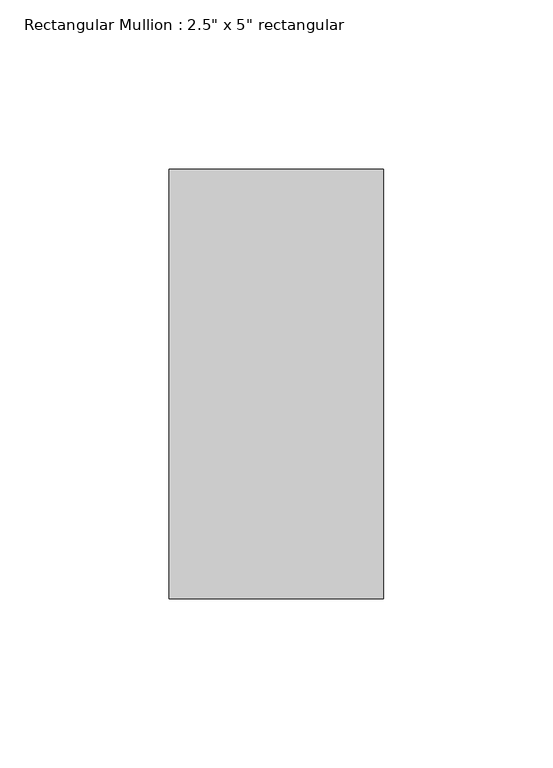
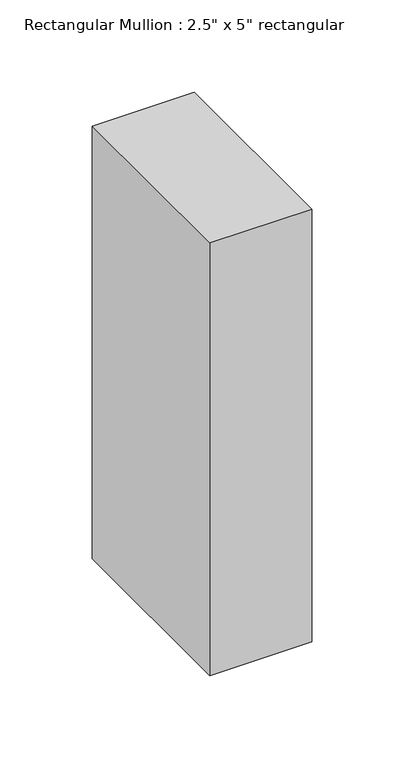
"""IFC4 building model written with IfcOpenShell, lengths in millimetres: member geometry."""

import ifcopenshell
import ifcopenshell.guid

model = None  # the IFC model being written
_history = None  # IfcOwnerHistory: only IFC2X3 demands one
_inside = {}  # id of a spatial element -> (the spatial element, [elements in it])
_under = {}  # id of a project, library or spatial element -> (it, [spatial elements below it])
_declared = {}  # id of a project -> (the project, [libraries it declares])
_typed = {}  # id of a type object -> (the type object, [elements of that type])
_made_of = {}  # id of a material, layer set ... -> (it, [elements and type objects made of it])


def new_model(schema):
    """Start an empty IFC model of exactly this schema.

    Asked for "IFC4X3", IfcOpenShell would pick the latest addendum, in which some entities
    have other attributes; the version numbers below select the first issue.
    IFC2X3 requires an IfcOwnerHistory on every rooted entity: one is made here for all.
    """
    global model, _history
    if schema == "IFC4X3":
        model = ifcopenshell.file(schema_version=(4, 3, 0, 0))
    else:
        model = ifcopenshell.file(schema=schema)
    _inside.clear()
    _under.clear()
    _declared.clear()
    _typed.clear()
    _made_of.clear()
    _history = None
    if model.schema == "IFC2X3":
        org = make("IfcOrganization", Name="unknown")
        user = make(
            "IfcPersonAndOrganization",
            ThePerson=make("IfcPerson", FamilyName="unknown"),
            TheOrganization=org,
        )
        app = make(
            "IfcApplication",
            ApplicationDeveloper=org,
            Version="unknown",
            ApplicationFullName="unknown",
            ApplicationIdentifier="unknown",
        )
        _history = make(
            "IfcOwnerHistory",
            OwningUser=user,
            OwningApplication=app,
            ChangeAction="ADDED",
            CreationDate=0,
        )
    return model


def make(cls, **values):
    """One entity of the class cls with the attributes given. An attribute that is None is left unset."""
    return model.create_entity(
        cls, **{name: value for name, value in values.items() if value is not None}
    )


def rooted(cls, **values):
    """An entity with a GlobalId (a new one), such as an element, a storey or a relation."""
    return make(cls, GlobalId=ifcopenshell.guid.new(), OwnerHistory=_history, **values)


def si_unit(unit_type, name, prefix=None):
    """IfcSIUnit, for example si_unit("LENGTHUNIT", "METRE", prefix="MILLI")."""
    return make("IfcSIUnit", UnitType=unit_type, Prefix=prefix, Name=name)


def assignment(units):
    """IfcUnitAssignment: the units of a project."""
    return None if units is None else make("IfcUnitAssignment", Units=units)


def point(xyz):
    """IfcCartesianPoint."""
    return None if xyz is None else make("IfcCartesianPoint", Coordinates=xyz)


def direction(xyz):
    """IfcDirection."""
    return None if xyz is None else make("IfcDirection", DirectionRatios=xyz)


def frame(location, z_axis=None, x_axis=None):
    """IfcAxis2Placement3D, a coordinate frame: its origin and axes. An axis left out is left unset."""
    return make(
        "IfcAxis2Placement3D",
        Location=point(location),
        Axis=direction(z_axis),
        RefDirection=direction(x_axis),
    )


def origin():
    """The frame at (0, 0, 0) with its axes left unset."""
    return frame((0.0, 0.0, 0.0))


def place(relative_to, where):
    """IfcLocalPlacement: puts the frame where relative to a parent placement (None: the world)."""
    return make(
        "IfcLocalPlacement", PlacementRelTo=relative_to, RelativePlacement=where
    )


def context(
    kind, dimensions, precision=None, world=None, true_north=None, identifier=None
):
    """IfcGeometricRepresentationContext, for example the 3D "Model" context."""
    return make(
        "IfcGeometricRepresentationContext",
        ContextIdentifier=identifier,
        ContextType=kind,
        CoordinateSpaceDimension=dimensions,
        Precision=precision,
        WorldCoordinateSystem=world,
        TrueNorth=true_north,
    )


def project(units=None, contexts=None):
    """IfcProject with its units and contexts."""
    return rooted(
        "IfcProject",
        Name="project",
        RepresentationContexts=contexts,
        UnitsInContext=assignment(units),
    )


def spatial(cls, under=None, at=None, **own):
    """A site, building, storey or space (cls), placed at a placement, below another one or the project."""
    s = rooted(cls, ObjectPlacement=at, **own)
    if under is not None:
        _under.setdefault(under.id(), (under, []))[1].append(s)
    return s


def polyline(points):
    """IfcPolyline through the points."""
    return make("IfcPolyline", Points=[point(p) for p in points])


def outline(outer, holes=None, kind="AREA"):
    """IfcArbitraryClosedProfileDef: a profile drawn as a closed curve; with holes, ...WithVoids."""
    if holes is None:
        return make("IfcArbitraryClosedProfileDef", ProfileType=kind, OuterCurve=outer)
    return make(
        "IfcArbitraryProfileDefWithVoids",
        ProfileType=kind,
        OuterCurve=outer,
        InnerCurves=holes,
    )


def extrude(swept, where, along, depth):
    """IfcExtrudedAreaSolid: the profile swept, set in the frame where, extruded along a direction by depth."""
    return make(
        "IfcExtrudedAreaSolid",
        SweptArea=swept,
        Position=where,
        ExtrudedDirection=direction(along),
        Depth=depth,
    )


def shape(context_of_items, identifier, shape_type, items):
    """IfcShapeRepresentation: the items that make up one representation, for example the "Body"."""
    return make(
        "IfcShapeRepresentation",
        ContextOfItems=context_of_items,
        RepresentationIdentifier=identifier,
        RepresentationType=shape_type,
        Items=items,
    )


def source(mapping_origin, context_of_items, identifier, shape_type, items):
    """IfcRepresentationMap: a shape defined once, which mapped items show again and again."""
    return make(
        "IfcRepresentationMap",
        MappingOrigin=mapping_origin,
        MappedRepresentation=shape(context_of_items, identifier, shape_type, items),
    )


def transform(
    local_origin,
    x_axis=None,
    y_axis=None,
    z_axis=None,
    scale=None,
    scale2=None,
    scale3=None,
    uniform=True,
):
    """IfcCartesianTransformationOperator3D, or its non-uniform kind. x_axis, y_axis, z_axis: its Axis1, 2, 3."""
    if uniform:
        return make(
            "IfcCartesianTransformationOperator3D",
            Axis1=direction(x_axis),
            Axis2=direction(y_axis),
            LocalOrigin=point(local_origin),
            Scale=scale,
            Axis3=direction(z_axis),
        )
    return make(
        "IfcCartesianTransformationOperator3DnonUniform",
        Axis1=direction(x_axis),
        Axis2=direction(y_axis),
        LocalOrigin=point(local_origin),
        Scale=scale,
        Axis3=direction(z_axis),
        Scale2=scale2,
        Scale3=scale3,
    )


def mapped(mapping_source, mapping_target):
    """IfcMappedItem: shows the shape of a source again, moved by a transform."""
    return make(
        "IfcMappedItem", MappingSource=mapping_source, MappingTarget=mapping_target
    )


def made_of(thing, what):
    """Note that an element or type object is made of a material, layer set ...; save() writes the relation."""
    if what is not None:
        _made_of.setdefault(what.id(), (what, []))[1].append(thing)
    return thing


def element(
    cls,
    number,
    at=None,
    inside=None,
    cuts=None,
    type_object=None,
    material=None,
    context=None,
    identifier="Body",
    shape_type=None,
    held_by="IfcProductDefinitionShape",
    body=None,
    shapes=None,
    **own,
):
    """One element of the class cls, such as IfcWall. Its Tag is "e" and its number.

    at: its placement. inside: the storey or other place that contains it. cuts: it is an
    opening in that element (IfcRelVoidsElement). A single representation is given by context,
    identifier, shape_type and body (its items); several are given by shapes. held_by: the class
    of the entity that holds the representations. save() writes the other relations.
    """
    e = rooted(cls, Tag="e%d" % number, ObjectPlacement=at, **own)
    if body is not None:
        shapes = [shape(context, identifier, shape_type, body)]
    if shapes is not None:
        e.Representation = make(held_by, Representations=shapes)
    if inside is not None:
        _inside.setdefault(inside.id(), (inside, []))[1].append(e)
    if cuts is not None:
        rooted(
            "IfcRelVoidsElement", RelatingBuildingElement=cuts, RelatedOpeningElement=e
        )
    if type_object is not None:
        _typed.setdefault(type_object.id(), (type_object, []))[1].append(e)
    return made_of(e, material)


def aggregate(whole, parts):
    """IfcRelAggregates: a whole, such as a stair, and the parts it consists of."""
    return rooted("IfcRelAggregates", RelatingObject=whole, RelatedObjects=parts)


def save(model, path):
    """Write the relations noted so far, then the file.

    IfcRelAggregates (storeys below a building ...), IfcRelContainedInSpatialStructure (elements
    in a storey), IfcRelDefinesByType, IfcRelAssociatesMaterial and IfcRelDeclares: one each for
    every whole, place, type object, material and project.
    """
    for whole, parts in _under.values():
        aggregate(whole, parts)
    for where, things in _inside.values():
        rooted(
            "IfcRelContainedInSpatialStructure",
            RelatedElements=things,
            RelatingStructure=where,
        )
    for kind, things in _typed.values():
        rooted("IfcRelDefinesByType", RelatedObjects=things, RelatingType=kind)
    for what, things in _made_of.values():
        rooted("IfcRelAssociatesMaterial", RelatedObjects=things, RelatingMaterial=what)
    for by, libraries in _declared.values():
        rooted("IfcRelDeclares", RelatingContext=by, RelatedDefinitions=libraries)
    model.write(path)


def member_dff87739(model_context):
    return source(origin(), model_context, "Body", "SweptSolid", [
        extrude(outline(polyline([(31.75, 63.5), (31.75, -63.5), (-31.75, -63.5), (-31.75, 63.5), (31.75, 63.5)])), frame((0.0, 0.0, -285.75), z_axis=(0.0, 0.0, 1.0), x_axis=(1.0, 0.0, 0.0)), (0.0, 0.0, 1.0), 285.75),
    ])


if __name__ == "__main__":
    model = new_model("IFC4")
    model_context = context("Model", 3, world=origin())
    ifc_project = project(units=[si_unit("LENGTHUNIT", "METRE", prefix="MILLI")], contexts=[model_context])
    site = spatial("IfcSite", under=ifc_project)
    building = spatial("IfcBuilding", under=site)
    placement = place(None, origin())
    member_shape = member_dff87739(model_context)
    element("IfcMember", 1, ObjectType="Rectangular Mullion : 2.5\" x 5\" rectangular", at=placement, inside=building, context=model_context, shape_type="MappedRepresentation", body=[
        mapped(member_shape, transform((0.0, 0.0, 0.0), x_axis=(1.0, 0.0, 0.0), y_axis=(0.0, 1.0, 0.0), z_axis=(0.0, 0.0, 1.0))),
    ])
    save(model, "model.ifc")
